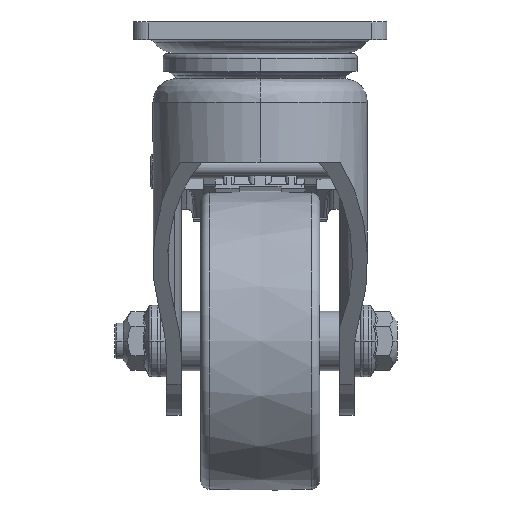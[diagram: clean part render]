
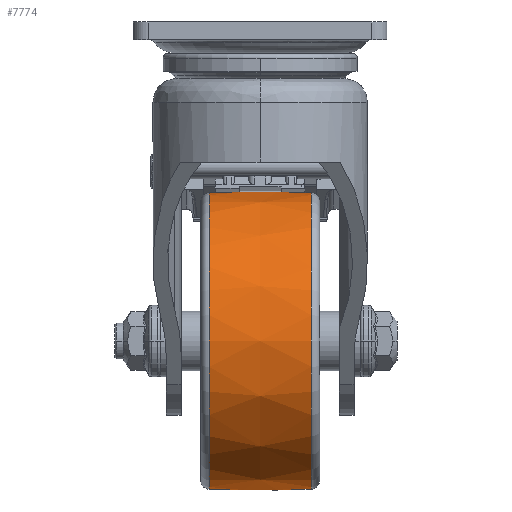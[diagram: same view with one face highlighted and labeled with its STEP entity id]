
A CAD part, left-side view. The second image highlights one B-rep face of the part: STEP entity #7774.
In plain terms, the highlighted free-form (B-spline) face has degree [2, 2] with [3, 9] control points.
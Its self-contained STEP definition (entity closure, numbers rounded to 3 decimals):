
#7701=CARTESIAN_POINT('',(101.278,-35.202,-2.897));
#7702=CARTESIAN_POINT('',(101.278,-35.788,-20.));
#7703=CARTESIAN_POINT('',(101.278,-35.202,-37.103));
#7704=CARTESIAN_POINT('',(150.985,-35.202,-2.897));
#7705=CARTESIAN_POINT('',(151.57,-35.788,-20.));
#7706=CARTESIAN_POINT('',(150.985,-35.202,-37.103));
#7707=CARTESIAN_POINT('',(150.985,14.505,-2.897));
#7708=CARTESIAN_POINT('',(151.57,14.505,-20.));
#7709=CARTESIAN_POINT('',(150.985,14.505,-37.103));
#7710=CARTESIAN_POINT('',(150.985,64.213,-2.897));
#7711=CARTESIAN_POINT('',(151.57,64.798,-20.));
#7712=CARTESIAN_POINT('',(150.985,64.213,-37.103));
#7713=CARTESIAN_POINT('',(101.278,64.213,-2.897));
#7714=CARTESIAN_POINT('',(101.278,64.798,-20.));
#7715=CARTESIAN_POINT('',(101.278,64.213,-37.103));
#7716=CARTESIAN_POINT('',(51.57,64.213,-2.897));
#7717=CARTESIAN_POINT('',(50.985,64.798,-20.));
#7718=CARTESIAN_POINT('',(51.57,64.213,-37.103));
#7719=CARTESIAN_POINT('',(51.57,14.505,-2.897));
#7720=CARTESIAN_POINT('',(50.985,14.505,-20.));
#7721=CARTESIAN_POINT('',(51.57,14.505,-37.103));
#7722=CARTESIAN_POINT('',(51.57,-35.202,-2.897));
#7723=CARTESIAN_POINT('',(50.985,-35.788,-20.));
#7724=CARTESIAN_POINT('',(51.57,-35.202,-37.103));
#7725=CARTESIAN_POINT('',(101.278,-35.202,-2.897));
#7726=CARTESIAN_POINT('',(101.278,-35.788,-20.));
#7727=CARTESIAN_POINT('',(101.278,-35.202,-37.103));
#7735=(BOUNDED_SURFACE()B_SPLINE_SURFACE(2,2,((#7701,#7704,#7707,#7710,#7713,#7716,#7719,#7722,#7725),(#7702,#7705,#7708,#7711,#7714,#7717,#7720,#7723,#7726),(#7703,#7706,#7709,#7712,#7715,#7718,#7721,#7724,#7727)),.UNSPECIFIED.,.F.,.T.,.U.)B_SPLINE_SURFACE_WITH_KNOTS((3,3),(3,2,2,2,3),(-0.034,0.034),(0.0,1.571,3.142,4.712,6.283),.UNSPECIFIED.)GEOMETRIC_REPRESENTATION_ITEM()RATIONAL_B_SPLINE_SURFACE(((1.0,0.707,1.0,0.707,1.0,0.707,1.0,0.707,1.0),(0.999,0.707,0.999,0.707,0.999,0.707,0.999,0.707,0.999),(1.0,0.707,1.0,0.707,1.0,0.707,1.0,0.707,1.0)))REPRESENTATION_ITEM('')SURFACE());
#7736=CARTESIAN_POINT('',(101.278,64.213,-37.103));
#7737=VERTEX_POINT('',#7736);
#7738=CARTESIAN_POINT('',(101.278,64.213,-2.897));
#7739=VERTEX_POINT('',#7738);
#7740=CARTESIAN_POINT('',(101.278,-435.495,-20.));
#7741=DIRECTION('',(1.0,0.0,0.0));
#7742=DIRECTION('',(0.0,1.0,0.0));
#7743=AXIS2_PLACEMENT_3D('',#7740,#7741,#7742);
#7744=CIRCLE('',#7743,500.0);
#7745=EDGE_CURVE('',#7737,#7739,#7744,.T.);
#7746=ORIENTED_EDGE('',*,*,#7745,.F.);
#7747=CARTESIAN_POINT('',(101.278,-35.202,-37.103));
#7748=VERTEX_POINT('',#7747);
#7749=CARTESIAN_POINT('',(101.278,14.505,-37.103));
#7750=DIRECTION('',(0.0,0.0,-1.0));
#7751=DIRECTION('',(0.0,1.0,0.0));
#7752=AXIS2_PLACEMENT_3D('',#7749,#7750,#7751);
#7753=CIRCLE('',#7752,49.707);
#7754=EDGE_CURVE('',#7748,#7737,#7753,.T.);
#7755=ORIENTED_EDGE('',*,*,#7754,.F.);
#7756=CARTESIAN_POINT('',(101.278,-35.202,-2.897));
#7757=VERTEX_POINT('',#7756);
#7758=CARTESIAN_POINT('',(101.278,464.505,-20.));
#7759=DIRECTION('',(-1.0,0.0,0.0));
#7760=DIRECTION('',(0.0,-1.0,0.0));
#7761=AXIS2_PLACEMENT_3D('',#7758,#7759,#7760);
#7762=CIRCLE('',#7761,500.0);
#7763=EDGE_CURVE('',#7748,#7757,#7762,.T.);
#7764=ORIENTED_EDGE('',*,*,#7763,.T.);
#7765=CARTESIAN_POINT('',(101.278,14.505,-2.897));
#7766=DIRECTION('',(0.0,0.0,-1.0));
#7767=DIRECTION('',(0.0,1.0,0.0));
#7768=AXIS2_PLACEMENT_3D('',#7765,#7766,#7767);
#7769=CIRCLE('',#7768,49.707);
#7770=EDGE_CURVE('',#7757,#7739,#7769,.T.);
#7771=ORIENTED_EDGE('',*,*,#7770,.T.);
#7772=EDGE_LOOP('',(#7746,#7755,#7764,#7771));
#7773=FACE_OUTER_BOUND('',#7772,.T.);
#7774=ADVANCED_FACE('',(#7773),#7735,.T.);
